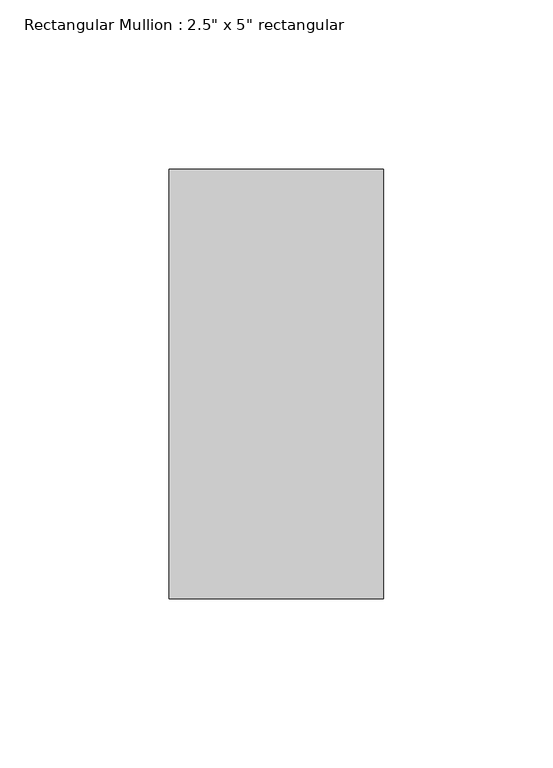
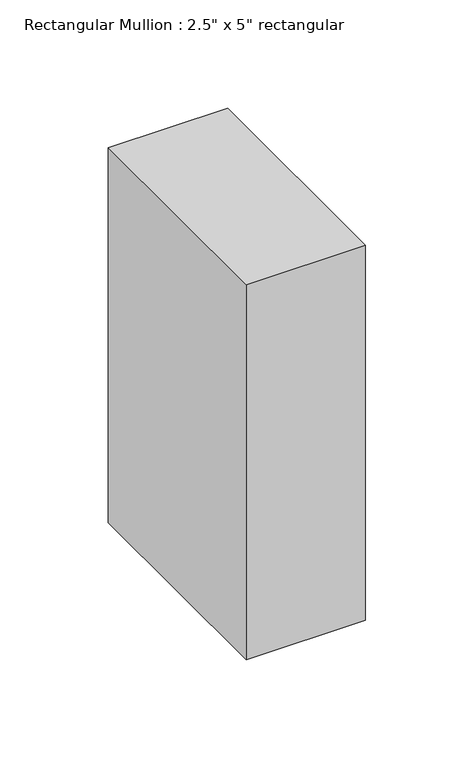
"""IFC4 building model written with IfcOpenShell, lengths in millimetres: member geometry."""

from ifc_helpers import new_model, si_unit, frame, origin, place, context, project, spatial, polyline, outline, extrude, source, transform, mapped, element, save


def member_dd5c6200(model_context):
    return source(origin(), model_context, "Body", "SweptSolid", [
        extrude(outline(polyline([(0.0, 63.5), (0.0, -63.5), (-63.5, -63.5), (-63.5, 63.5), (0.0, 63.5)])), frame((0.0, 0.0, -210.9151287), z_axis=(0.0, 0.0, 1.0), x_axis=(1.0, 0.0, 0.0)), (0.0, 0.0, 1.0), 210.9151287),
    ])


if __name__ == "__main__":
    model = new_model("IFC4")
    model_context = context("Model", 3, world=origin())
    ifc_project = project(units=[si_unit("LENGTHUNIT", "METRE", prefix="MILLI")], contexts=[model_context])
    site = spatial("IfcSite", under=ifc_project)
    building = spatial("IfcBuilding", under=site)
    placement = place(None, origin())
    member_shape = member_dd5c6200(model_context)
    element("IfcMember", 1, ObjectType="Rectangular Mullion : 2.5\" x 5\" rectangular", at=placement, inside=building, context=model_context, shape_type="MappedRepresentation", body=[
        mapped(member_shape, transform((0.0, 0.0, 0.0), x_axis=(1.0, 0.0, 0.0), y_axis=(0.0, 1.0, 0.0), z_axis=(0.0, 0.0, 1.0))),
    ])
    save(model, "model.ifc")
